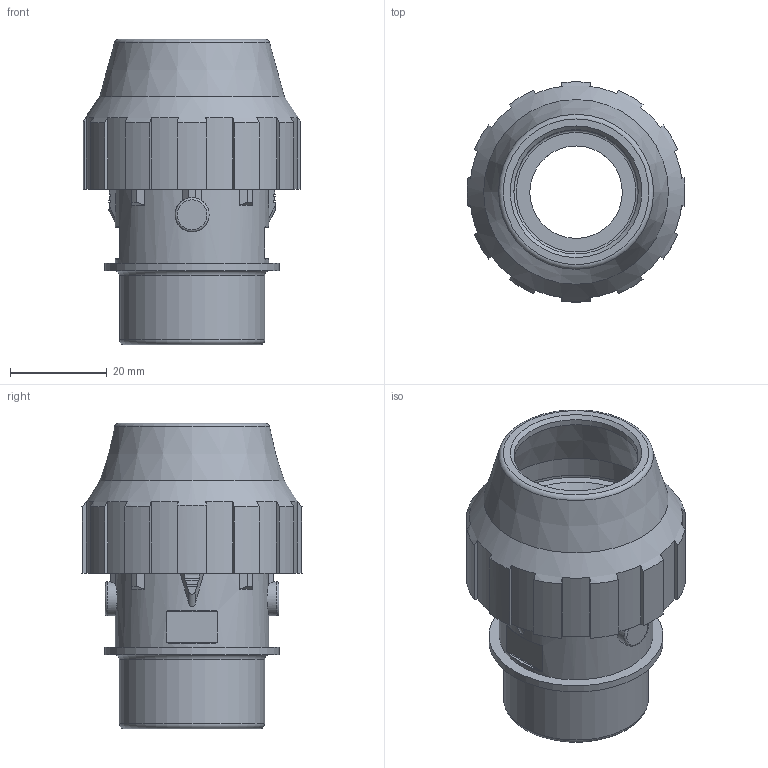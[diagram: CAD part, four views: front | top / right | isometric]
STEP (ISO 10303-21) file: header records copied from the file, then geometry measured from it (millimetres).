
FILE_DESCRIPTION( ( 'STEP AP214' ), '1' );
FILE_NAME( ' ', ' ', ( ' ' ), ( ' ' ), 'PSStep 11.0', 'VISI 17.0', ' ' );
FILE_SCHEMA( ( 'AUTOMOTIVE_DESIGN { 1 0 10303 214 1 1 1 1 }' ) );
Length unit declared in the file: millimetre
Products named in the file (6): 1; 2; 3; 4; 5; 6
Bounding box: 44.98 x 45.46 x 63.11 mm (x, y, z)
Volume: 26095.3 mm3; surface area: 26413.3 mm2
Topology: 6 solids, 6 shells, 193 faces, 494 edges, 323 vertices
Faces by surface type: plane 89, cylinder 74, torus 13, cone 9, bspline 8
Full cylindrical faces by diameter (mm): 7.042 x2, 19.109 x1, 24.117 x2, 25.7 x2, 26.441 x2, 30 x1, 31.751 x1, 36 x2, 37 x1, 40 x2
Entity records: 8790 total; most frequent: CARTESIAN_POINT 2623, DIRECTION 996, ORIENTED_EDGE 882, EDGE_CURVE 441, AXIS2_PLACEMENT_3D 404, VERTEX_POINT 305, EDGE_LOOP 246, FACE_OUTER_BOUND 218
